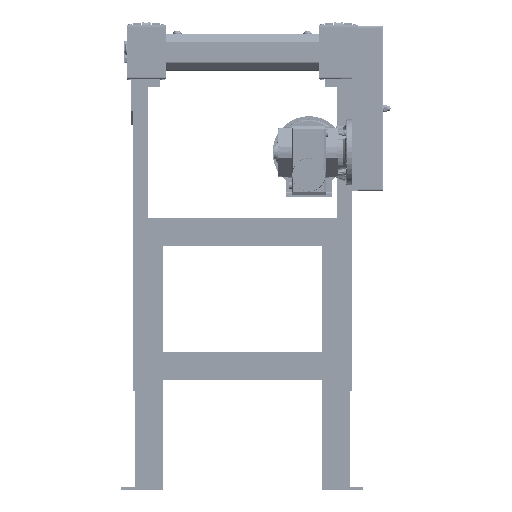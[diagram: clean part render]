
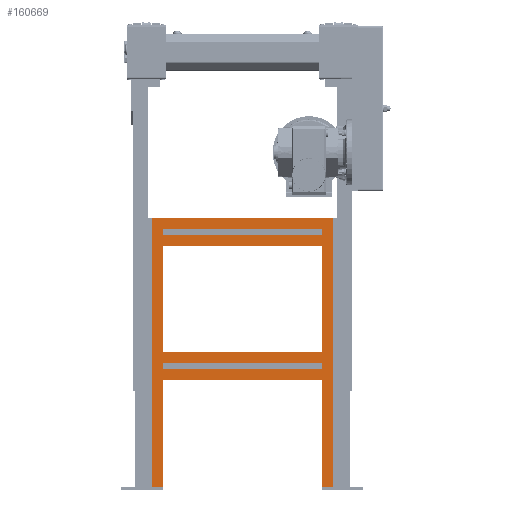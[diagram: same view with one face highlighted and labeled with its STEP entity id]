
A CAD part, front view. The second image highlights one B-rep face of the part: STEP entity #160669.
In plain terms, the highlighted planar face has unit normal (0, -1, 0).
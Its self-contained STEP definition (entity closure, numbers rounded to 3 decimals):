
#5989=FACE_BOUND('',#31265,.T.);
#5990=FACE_BOUND('',#31266,.T.);
#5991=FACE_BOUND('',#31267,.T.);
#21664=FACE_OUTER_BOUND('',#31264,.T.);
#31264=EDGE_LOOP('',(#107152,#107153,#107154,#107155,#107156,#107157,#107158,
#107159));
#31265=EDGE_LOOP('',(#107160,#107161,#107162,#107163));
#31266=EDGE_LOOP('',(#107164,#107165,#107166,#107167));
#31267=EDGE_LOOP('',(#107168,#107169,#107170,#107171));
#46162=LINE('',#244275,#56405);
#46259=LINE('',#244488,#56502);
#46261=LINE('',#244494,#56504);
#46293=LINE('',#244561,#56536);
#46301=LINE('',#244578,#56544);
#46347=LINE('',#244669,#56590);
#46441=LINE('',#244852,#56684);
#46493=LINE('',#244956,#56736);
#46497=LINE('',#244963,#56740);
#46509=LINE('',#244987,#56752);
#46512=LINE('',#244993,#56755);
#46536=LINE('',#245040,#56779);
#46539=LINE('',#245046,#56782);
#46546=LINE('',#245056,#56789);
#46580=LINE('',#245124,#56823);
#46592=LINE('',#245148,#56835);
#46594=LINE('',#245151,#56837);
#46614=LINE('',#245189,#56857);
#46644=LINE('',#245246,#56887);
#46645=LINE('',#245247,#56888);
#56405=VECTOR('',#193784,19.95);
#56502=VECTOR('',#193943,194.5);
#56504=VECTOR('',#193947,194.5);
#56536=VECTOR('',#193993,10.1);
#56544=VECTOR('',#194003,10.1);
#56590=VECTOR('',#194071,489.);
#56684=VECTOR('',#194229,19.95);
#56736=VECTOR('',#194339,291.);
#56740=VECTOR('',#194345,291.);
#56752=VECTOR('',#194369,291.);
#56755=VECTOR('',#194374,291.);
#56779=VECTOR('',#194420,194.5);
#56782=VECTOR('',#194429,194.5);
#56789=VECTOR('',#194438,10.1);
#56823=VECTOR('',#194500,291.);
#56835=VECTOR('',#194524,291.);
#56837=VECTOR('',#194528,291.);
#56857=VECTOR('',#194572,10.1);
#56887=VECTOR('',#194622,330.9);
#56888=VECTOR('',#194623,489.);
#66234=VERTEX_POINT('',#244272);
#66235=VERTEX_POINT('',#244274);
#66309=VERTEX_POINT('',#244465);
#66320=VERTEX_POINT('',#244486);
#66322=VERTEX_POINT('',#244491);
#66323=VERTEX_POINT('',#244493);
#66350=VERTEX_POINT('',#244558);
#66351=VERTEX_POINT('',#244560);
#66357=VERTEX_POINT('',#244574);
#66359=VERTEX_POINT('',#244577);
#66391=VERTEX_POINT('',#244665);
#66393=VERTEX_POINT('',#244668);
#66472=VERTEX_POINT('',#244953);
#66475=VERTEX_POINT('',#244960);
#66481=VERTEX_POINT('',#244985);
#66483=VERTEX_POINT('',#244990);
#66495=VERTEX_POINT('',#245038);
#66517=VERTEX_POINT('',#245121);
#66523=VERTEX_POINT('',#245146);
#66546=VERTEX_POINT('',#245245);
#82272=EDGE_CURVE('',#66234,#66235,#46162,.T.);
#82379=EDGE_CURVE('',#66320,#66309,#46259,.T.);
#82381=EDGE_CURVE('',#66322,#66323,#46261,.T.);
#82413=EDGE_CURVE('',#66350,#66351,#46293,.T.);
#82421=EDGE_CURVE('',#66357,#66359,#46301,.T.);
#82467=EDGE_CURVE('',#66393,#66391,#46347,.T.);
#82561=EDGE_CURVE('',#66320,#66393,#46441,.T.);
#82615=EDGE_CURVE('',#66472,#66322,#46493,.T.);
#82619=EDGE_CURVE('',#66351,#66475,#46497,.T.);
#82631=EDGE_CURVE('',#66350,#66481,#46509,.T.);
#82634=EDGE_CURVE('',#66309,#66483,#46512,.T.);
#82658=EDGE_CURVE('',#66472,#66495,#46536,.T.);
#82661=EDGE_CURVE('',#66234,#66483,#46539,.T.);
#82668=EDGE_CURVE('',#66481,#66475,#46546,.T.);
#82702=EDGE_CURVE('',#66359,#66517,#46580,.T.);
#82714=EDGE_CURVE('',#66357,#66523,#46592,.T.);
#82716=EDGE_CURVE('',#66323,#66495,#46594,.T.);
#82736=EDGE_CURVE('',#66523,#66517,#46614,.T.);
#82766=EDGE_CURVE('',#66546,#66391,#46644,.T.);
#82767=EDGE_CURVE('',#66235,#66546,#46645,.T.);
#107152=ORIENTED_EDGE('',*,*,#82634,.F.);
#107153=ORIENTED_EDGE('',*,*,#82379,.F.);
#107154=ORIENTED_EDGE('',*,*,#82561,.T.);
#107155=ORIENTED_EDGE('',*,*,#82467,.T.);
#107156=ORIENTED_EDGE('',*,*,#82766,.F.);
#107157=ORIENTED_EDGE('',*,*,#82767,.F.);
#107158=ORIENTED_EDGE('',*,*,#82272,.F.);
#107159=ORIENTED_EDGE('',*,*,#82661,.T.);
#107160=ORIENTED_EDGE('',*,*,#82615,.F.);
#107161=ORIENTED_EDGE('',*,*,#82658,.T.);
#107162=ORIENTED_EDGE('',*,*,#82716,.F.);
#107163=ORIENTED_EDGE('',*,*,#82381,.F.);
#107164=ORIENTED_EDGE('',*,*,#82619,.F.);
#107165=ORIENTED_EDGE('',*,*,#82413,.F.);
#107166=ORIENTED_EDGE('',*,*,#82631,.T.);
#107167=ORIENTED_EDGE('',*,*,#82668,.T.);
#107168=ORIENTED_EDGE('',*,*,#82702,.F.);
#107169=ORIENTED_EDGE('',*,*,#82421,.F.);
#107170=ORIENTED_EDGE('',*,*,#82714,.T.);
#107171=ORIENTED_EDGE('',*,*,#82736,.T.);
#146227=PLANE('',#170560);
#160669=ADVANCED_FACE('',(#21664,#5989,#5990,#5991),#146227,.T.);
#170560=AXIS2_PLACEMENT_3D('',#245244,#194620,#194621);
#193784=DIRECTION('',(-1.,0.,0.));
#193943=DIRECTION('',(0.,0.,1.));
#193947=DIRECTION('',(0.,0.,1.));
#193993=DIRECTION('',(0.,0.,1.));
#194003=DIRECTION('',(0.,0.,1.));
#194071=DIRECTION('',(0.,0.,1.));
#194229=DIRECTION('',(1.,0.,0.));
#194339=DIRECTION('',(1.,0.,0.));
#194345=DIRECTION('',(-1.,0.,0.));
#194369=DIRECTION('',(-1.,0.,0.));
#194374=DIRECTION('',(-1.,0.,0.));
#194420=DIRECTION('',(0.,0.,1.));
#194429=DIRECTION('',(0.,0.,1.));
#194438=DIRECTION('',(0.,0.,1.));
#194500=DIRECTION('',(-1.,0.,0.));
#194524=DIRECTION('',(-1.,0.,0.));
#194528=DIRECTION('',(-1.,0.,0.));
#194572=DIRECTION('',(0.,0.,1.));
#194620=DIRECTION('center_axis',(0.,-1.,0.));
#194621=DIRECTION('ref_axis',(0.,0.,1.));
#194622=DIRECTION('',(1.,0.,0.));
#194623=DIRECTION('',(0.,0.,1.));
#244272=CARTESIAN_POINT('',(-145.5,-825.,6.));
#244274=CARTESIAN_POINT('',(-165.45,-825.,6.));
#244275=CARTESIAN_POINT('',(-164.25,-825.,6.));
#244465=CARTESIAN_POINT('',(145.5,-825.,200.5));
#244486=CARTESIAN_POINT('',(145.5,-825.,6.));
#244488=CARTESIAN_POINT('',(145.5,-825.,6.));
#244491=CARTESIAN_POINT('',(145.5,-825.,250.5));
#244493=CARTESIAN_POINT('',(145.5,-825.,445.));
#244494=CARTESIAN_POINT('',(145.5,-825.,6.));
#244558=CARTESIAN_POINT('',(145.5,-825.,220.45));
#244560=CARTESIAN_POINT('',(145.5,-825.,230.55));
#244561=CARTESIAN_POINT('',(145.5,-825.,6.));
#244574=CARTESIAN_POINT('',(145.5,-825.,464.95));
#244577=CARTESIAN_POINT('',(145.5,-825.,475.05));
#244578=CARTESIAN_POINT('',(145.5,-825.,6.));
#244665=CARTESIAN_POINT('',(165.45,-825.,495.));
#244668=CARTESIAN_POINT('',(165.45,-825.,6.));
#244669=CARTESIAN_POINT('',(165.45,-825.,6.));
#244852=CARTESIAN_POINT('',(164.25,-825.,6.));
#244953=CARTESIAN_POINT('',(-145.5,-825.,250.5));
#244956=CARTESIAN_POINT('',(0.,-825.,250.5));
#244960=CARTESIAN_POINT('',(-145.5,-825.,230.55));
#244963=CARTESIAN_POINT('',(0.,-825.,230.55));
#244985=CARTESIAN_POINT('',(-145.5,-825.,220.45));
#244987=CARTESIAN_POINT('',(0.,-825.,220.45));
#244990=CARTESIAN_POINT('',(-145.5,-825.,200.5));
#244993=CARTESIAN_POINT('',(0.,-825.,200.5));
#245038=CARTESIAN_POINT('',(-145.5,-825.,445.));
#245040=CARTESIAN_POINT('',(-145.5,-825.,6.));
#245046=CARTESIAN_POINT('',(-145.5,-825.,6.));
#245056=CARTESIAN_POINT('',(-145.5,-825.,6.));
#245121=CARTESIAN_POINT('',(-145.5,-825.,475.05));
#245124=CARTESIAN_POINT('',(0.,-825.,475.05));
#245146=CARTESIAN_POINT('',(-145.5,-825.,464.95));
#245148=CARTESIAN_POINT('',(0.,-825.,464.95));
#245151=CARTESIAN_POINT('',(0.,-825.,445.));
#245189=CARTESIAN_POINT('',(-145.5,-825.,6.));
#245244=CARTESIAN_POINT('Origin',(-145.5,-825.,6.));
#245245=CARTESIAN_POINT('',(-165.45,-825.,495.));
#245246=CARTESIAN_POINT('',(165.45,-825.,495.));
#245247=CARTESIAN_POINT('',(-165.45,-825.,6.));
